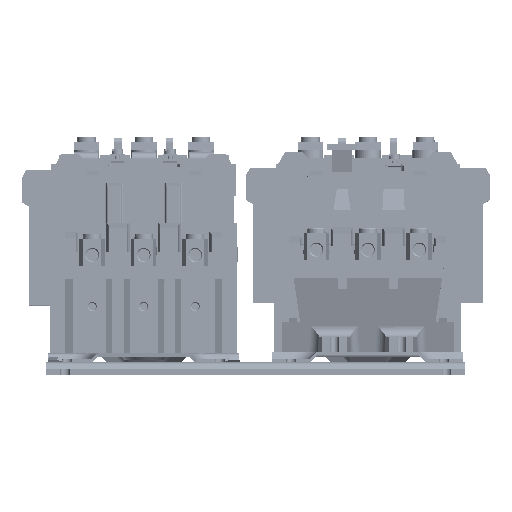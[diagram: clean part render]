
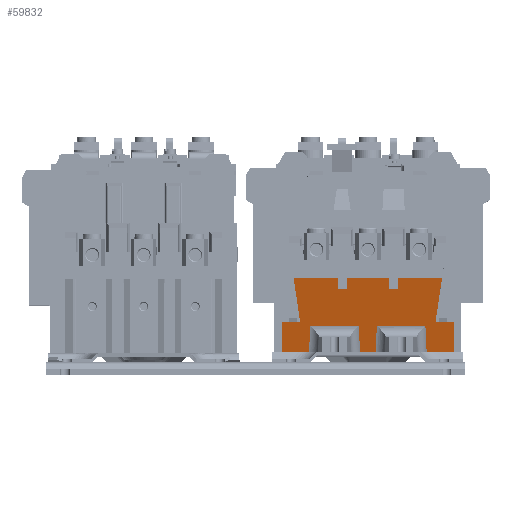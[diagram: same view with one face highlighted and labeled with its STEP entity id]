
A CAD part, top view. The second image highlights one B-rep face of the part: STEP entity #59832.
In plain terms, the highlighted planar face has unit normal (-0.001, -0.259, 0.966).
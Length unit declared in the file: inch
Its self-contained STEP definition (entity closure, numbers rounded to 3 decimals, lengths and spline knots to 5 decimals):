
#6644=DIRECTION('',(1.,0.,0.));
#6645=VECTOR('',#6644,0.56201);
#6646=CARTESIAN_POINT('',(-1.7765,0.065,3.49589));
#6647=LINE('',#6646,#6645);
#6723=DIRECTION('',(1.,0.,0.));
#6724=VECTOR('',#6723,0.32103);
#6725=CARTESIAN_POINT('',(-0.16051,0.065,3.49589));
#6726=LINE('',#6725,#6724);
#6802=DIRECTION('',(1.,0.,0.));
#6803=VECTOR('',#6802,0.56201);
#6804=CARTESIAN_POINT('',(1.21449,0.065,3.49589));
#6805=LINE('',#6804,#6803);
#7770=DIRECTION('',(0.,-0.966,-0.259));
#7771=VECTOR('',#7770,0.65015);
#7772=CARTESIAN_POINT('',(1.7765,0.693,3.66417));
#7773=LINE('',#7772,#7771);
#7854=DIRECTION('',(0.,-0.966,-0.259));
#7855=VECTOR('',#7854,0.65015);
#7856=CARTESIAN_POINT('',(-1.7765,0.693,3.66417));
#7857=LINE('',#7856,#7855);
#14566=DIRECTION('',(0.,-0.966,
-0.259));
#14567=VECTOR('',#14566,0.23182);
#14568=CARTESIAN_POINT('',(0.626,1.596,3.90612));
#14569=LINE('',#14568,#14567);
#14580=DIRECTION('',(-1.,0.,0.));
#14581=VECTOR('',#14580,0.90631);
#14582=CARTESIAN_POINT('',(-0.626,1.596,3.90612));
#14583=LINE('',#14582,#14581);
#14587=DIRECTION('',(-1.,0.,0.));
#14588=VECTOR('',#14587,0.872);
#14589=CARTESIAN_POINT('',(0.436,1.596,3.90612));
#14590=LINE('',#14589,#14588);
#14594=DIRECTION('',(-1.,0.,0.));
#14595=VECTOR('',#14594,0.90631);
#14596=CARTESIAN_POINT('',(1.53231,1.596,3.90612));
#14597=LINE('',#14596,#14595);
#14601=DIRECTION('',(0.046,-0.965,-0.259));
#14602=VECTOR('',#14601,0.57121);
#14603=CARTESIAN_POINT('',(1.18845,0.61618,
3.64358));
#14604=LINE('',#14603,#14602);
#14608=DIRECTION('',(0.046,0.965,0.259));
#14609=VECTOR('',#14608,0.57121);
#14610=CARTESIAN_POINT('',(0.16051,0.065,
3.49589));
#14611=LINE('',#14610,#14609);
#14615=DIRECTION('',(0.046,-0.965,-0.259));
#14616=VECTOR('',#14615,0.57121);
#14617=CARTESIAN_POINT('',(-0.18655,0.61618,
3.64358));
#14618=LINE('',#14617,#14616);
#14622=DIRECTION('',(0.046,0.965,0.259));
#14623=VECTOR('',#14622,0.57121);
#14624=CARTESIAN_POINT('',(-1.21449,0.065,3.49589));
#14625=LINE('',#14624,#14623);
#14643=DIRECTION('',(-1.,0.,0.));
#14644=VECTOR('',#14643,0.37914);
#14645=CARTESIAN_POINT('',(-1.39736,0.693,3.66417));
#14646=LINE('',#14645,#14644);
#14692=DIRECTION('',(0.143,-0.956,-0.256));
#14693=VECTOR('',#14692,0.94455);
#14694=CARTESIAN_POINT('',(-1.53231,1.596,3.90612));
#14695=LINE('',#14694,#14693);
#15636=DIRECTION('',(0.,0.966,0.259));
#15637=VECTOR('',#15636,0.23182);
#15638=CARTESIAN_POINT('',(0.436,1.37208,3.84612));
#15639=LINE('',#15638,#15637);
#15643=DIRECTION('',(-1.,0.,0.));
#15644=VECTOR('',#15643,0.19);
#15645=CARTESIAN_POINT('',(0.626,1.37208,3.84612));
#15646=LINE('',#15645,#15644);
#15678=DIRECTION('',(0.,-0.966,
-0.259));
#15679=VECTOR('',#15678,0.23182);
#15680=CARTESIAN_POINT('',(-0.436,1.596,3.90612));
#15681=LINE('',#15680,#15679);
#15699=DIRECTION('',(-1.,0.,0.));
#15700=VECTOR('',#15699,0.19);
#15701=CARTESIAN_POINT('',(-0.436,1.37208,3.84612));
#15702=LINE('',#15701,#15700);
#15734=DIRECTION('',(0.,0.966,0.259));
#15735=VECTOR('',#15734,0.23182);
#15736=CARTESIAN_POINT('',(-0.626,1.37208,3.84612));
#15737=LINE('',#15736,#15735);
#21596=DIRECTION('',(0.143,0.956,0.256));
#21597=VECTOR('',#21596,0.94455);
#21598=CARTESIAN_POINT('',(1.39736,0.693,3.66417));
#21599=LINE('',#21598,#21597);
#21624=DIRECTION('',(-1.,0.,0.));
#21625=VECTOR('',#21624,0.37914);
#21626=CARTESIAN_POINT('',(1.7765,0.693,3.66417));
#21627=LINE('',#21626,#21625);
#22074=DIRECTION('',(-1.,0.,0.));
#22075=VECTOR('',#22074,1.00189);
#22076=CARTESIAN_POINT('',(1.18845,0.61618,
3.64358));
#22077=LINE('',#22076,#22075);
#22246=DIRECTION('',(-1.,0.,0.));
#22247=VECTOR('',#22246,1.00189);
#22248=CARTESIAN_POINT('',(-0.18655,0.61618,
3.64358));
#22249=LINE('',#22248,#22247);
#46630=CARTESIAN_POINT('',(-1.7765,0.693,3.66417));
#46631=VERTEX_POINT('',#46630);
#46666=CARTESIAN_POINT('',(1.53231,1.596,3.90612));
#46667=VERTEX_POINT('',#46666);
#46668=CARTESIAN_POINT('',(1.39736,0.693,3.66417));
#46669=VERTEX_POINT('',#46668);
#47019=CARTESIAN_POINT('',(0.626,1.596,3.90612));
#47020=VERTEX_POINT('',#47019);
#47021=CARTESIAN_POINT('',(0.626,1.37208,3.84612));
#47022=VERTEX_POINT('',#47021);
#47035=CARTESIAN_POINT('',(0.436,1.596,3.90612));
#47036=VERTEX_POINT('',#47035);
#47037=CARTESIAN_POINT('',(-0.436,1.596,3.90612));
#47038=VERTEX_POINT('',#47037);
#47047=CARTESIAN_POINT('',(-0.626,1.596,3.90612));
#47048=VERTEX_POINT('',#47047);
#47049=CARTESIAN_POINT('',(-1.53231,1.596,3.90612));
#47050=VERTEX_POINT('',#47049);
#47088=CARTESIAN_POINT('',(-1.39736,0.693,3.66417));
#47089=VERTEX_POINT('',#47088);
#47090=CARTESIAN_POINT('',(1.7765,0.693,3.66417));
#47091=VERTEX_POINT('',#47090);
#47092=CARTESIAN_POINT('',(1.18845,0.61618,
3.64358));
#47093=CARTESIAN_POINT('',(0.18655,0.61618,
3.64358));
#47094=VERTEX_POINT('',#47092);
#47095=VERTEX_POINT('',#47093);
#47096=CARTESIAN_POINT('',(-0.18655,0.61618,
3.64358));
#47097=CARTESIAN_POINT('',(-1.18845,0.61618,
3.64358));
#47098=VERTEX_POINT('',#47096);
#47099=VERTEX_POINT('',#47097);
#47100=CARTESIAN_POINT('',(-0.626,1.37208,3.84612));
#47101=VERTEX_POINT('',#47100);
#47102=CARTESIAN_POINT('',(-0.436,1.37208,3.84612));
#47103=VERTEX_POINT('',#47102);
#47104=CARTESIAN_POINT('',(0.436,1.37208,3.84612));
#47105=VERTEX_POINT('',#47104);
#48478=CARTESIAN_POINT('',(-1.7765,0.065,3.49589));
#48479=CARTESIAN_POINT('',(-1.21449,0.065,3.49589));
#48480=VERTEX_POINT('',#48478);
#48481=VERTEX_POINT('',#48479);
#48482=CARTESIAN_POINT('',(-0.16051,0.065,3.49589));
#48483=CARTESIAN_POINT('',(0.16051,0.065,
3.49589));
#48484=VERTEX_POINT('',#48482);
#48485=VERTEX_POINT('',#48483);
#48486=CARTESIAN_POINT('',(1.21449,0.065,3.49589));
#48487=CARTESIAN_POINT('',(1.7765,0.065,3.49589));
#48488=VERTEX_POINT('',#48486);
#48489=VERTEX_POINT('',#48487);
#59784=CARTESIAN_POINT('',(0.,0.8305,3.70101));
#59785=DIRECTION('',(0.,-0.259,0.966));
#59786=DIRECTION('',(0.,-0.966,-0.259));
#59787=AXIS2_PLACEMENT_3D('',#59784,#59785,#59786);
#59788=PLANE('',#59787);
#59789=ORIENTED_EDGE('',*,*,#52434,.F.);
#59790=ORIENTED_EDGE('',*,*,#53587,.F.);
#59792=ORIENTED_EDGE('',*,*,#59791,.F.);
#59794=ORIENTED_EDGE('',*,*,#59793,.F.);
#59796=ORIENTED_EDGE('',*,*,#59795,.F.);
#59798=ORIENTED_EDGE('',*,*,#59797,.F.);
#59800=ORIENTED_EDGE('',*,*,#59799,.F.);
#59802=ORIENTED_EDGE('',*,*,#59801,.F.);
#59804=ORIENTED_EDGE('',*,*,#59803,.F.);
#59806=ORIENTED_EDGE('',*,*,#59805,.F.);
#59808=ORIENTED_EDGE('',*,*,#59807,.F.);
#59809=ORIENTED_EDGE('',*,*,#59769,.F.);
#59810=ORIENTED_EDGE('',*,*,#59576,.F.);
#59812=ORIENTED_EDGE('',*,*,#59811,.F.);
#59814=ORIENTED_EDGE('',*,*,#59813,.F.);
#59815=ORIENTED_EDGE('',*,*,#53524,.T.);
#59816=ORIENTED_EDGE('',*,*,#52474,.F.);
#59818=ORIENTED_EDGE('',*,*,#59817,.F.);
#59820=ORIENTED_EDGE('',*,*,#59819,.T.);
#59822=ORIENTED_EDGE('',*,*,#59821,.F.);
#59823=ORIENTED_EDGE('',*,*,#52454,.F.);
#59825=ORIENTED_EDGE('',*,*,#59824,.F.);
#59827=ORIENTED_EDGE('',*,*,#59826,.T.);
#59829=ORIENTED_EDGE('',*,*,#59828,.F.);
#59830=EDGE_LOOP('',(#59789,#59790,#59792,#59794,#59796,#59798,#59800,#59802,
#59804,#59806,#59808,#59809,#59810,#59812,#59814,#59815,#59816,#59818,#59820,
#59822,#59823,#59825,#59827,#59829));
#59831=FACE_OUTER_BOUND('',#59830,.F.);
#52434=EDGE_CURVE('',#48480,#48481,#6647,.T.);
#52454=EDGE_CURVE('',#48484,#48485,#6726,.T.);
#52474=EDGE_CURVE('',#48488,#48489,#6805,.T.);
#53524=EDGE_CURVE('',#47091,#48489,#7773,.T.);
#53587=EDGE_CURVE('',#46631,#48480,#7857,.T.);
#59576=EDGE_CURVE('',#46667,#47020,#14597,.T.);
#59769=EDGE_CURVE('',#47020,#47022,#14569,.T.);
#59791=EDGE_CURVE('',#47089,#46631,#14646,.T.);
#59793=EDGE_CURVE('',#47050,#47089,#14695,.T.);
#59795=EDGE_CURVE('',#47048,#47050,#14583,.T.);
#59797=EDGE_CURVE('',#47101,#47048,#15737,.T.);
#59799=EDGE_CURVE('',#47103,#47101,#15702,.T.);
#59801=EDGE_CURVE('',#47038,#47103,#15681,.T.);
#59803=EDGE_CURVE('',#47036,#47038,#14590,.T.);
#59805=EDGE_CURVE('',#47105,#47036,#15639,.T.);
#59807=EDGE_CURVE('',#47022,#47105,#15646,.T.);
#59811=EDGE_CURVE('',#46669,#46667,#21599,.T.);
#59813=EDGE_CURVE('',#47091,#46669,#21627,.T.);
#59817=EDGE_CURVE('',#47094,#48488,#14604,.T.);
#59819=EDGE_CURVE('',#47094,#47095,#22077,.T.);
#59821=EDGE_CURVE('',#48485,#47095,#14611,.T.);
#59824=EDGE_CURVE('',#47098,#48484,#14618,.T.);
#59826=EDGE_CURVE('',#47098,#47099,#22249,.T.);
#59828=EDGE_CURVE('',#48481,#47099,#14625,.T.);
#59832=ADVANCED_FACE('',(#59831),#59788,.T.);
